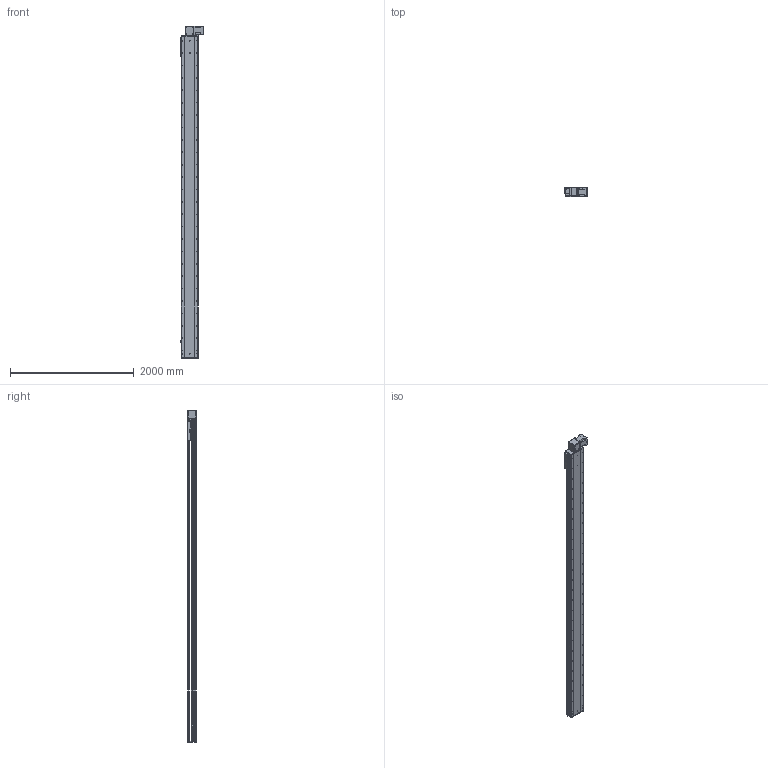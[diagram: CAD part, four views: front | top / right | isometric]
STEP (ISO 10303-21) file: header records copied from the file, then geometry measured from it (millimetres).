
FILE_DESCRIPTION (( 'STEP AP214' ), '1' );
FILE_NAME ('RTB28S-XX-4750-BL-M100-XX-C4.STEP', '2025-12-22T02:48:27', ( '' ), ( '' ), 'SwSTEP 2.0', 'SolidWorks 2018', '' );
FILE_SCHEMA (( 'AUTOMOTIVE_DESIGN' ));
Length unit declared in the file: millimetre
Products named in the file (4): RTB28S-GY-011^RTB28S-XX-XX-BL-M100-XX-C4; RTB28S-GY-004^RTB28S-XX-XX-BL-M100-XX-C4; RTB28S-XX-4750-BL-M100-XX-C4; RTB28S-GY-008^RTB28S-XX-XX-BL-M100-XX-C4
Assembly tree (3 placements, depth 2):
  RTB28S-XX-4750-BL-M100-XX-C4
    RTB28S-GY-011^RTB28S-XX-XX-BL-M100-XX-C4
    RTB28S-GY-004^RTB28S-XX-XX-BL-M100-XX-C4
    RTB28S-GY-008^RTB28S-XX-XX-BL-M100-XX-C4
Bounding box: 380.7 x 145 x 5357 mm (x, y, z)
Volume: 88663351.3 mm3; surface area: 8191938.3 mm2
Topology: 3 solids, 4 shells, 978 faces, 2658 edges, 1708 vertices
Faces by surface type: cylinder 511, plane 383, cone 80, torus 4
Entity records: 38747 total; most frequent: CARTESIAN_POINT 7852, DIRECTION 5676, ORIENTED_EDGE 5252, EDGE_CURVE 2626, AXIS2_PLACEMENT_3D 2128, VERTEX_POINT 1708, LINE 1420, VECTOR 1420
